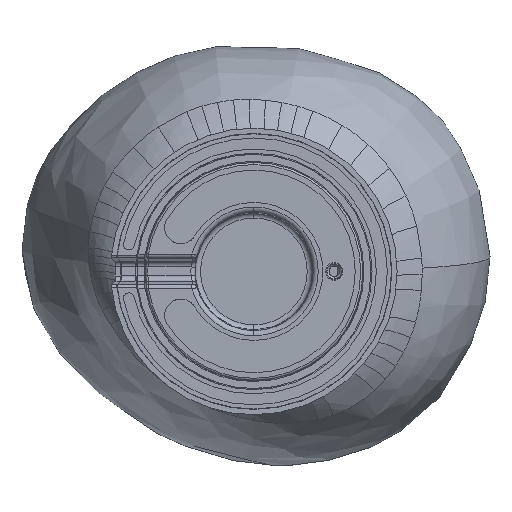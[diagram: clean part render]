
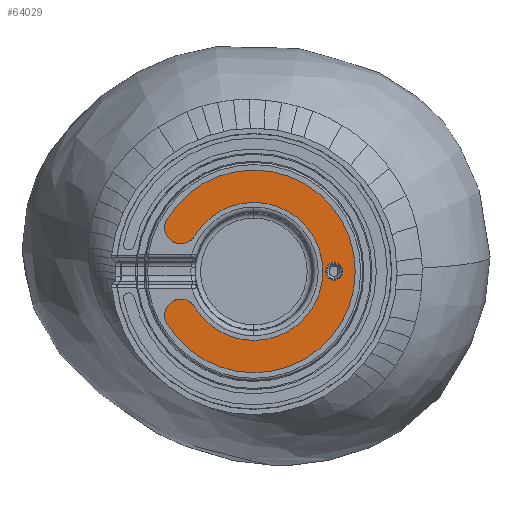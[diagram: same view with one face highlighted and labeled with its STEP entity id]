
A CAD part, front view. The second image highlights one B-rep face of the part: STEP entity #64029.
In plain terms, the highlighted planar face has unit normal (0, -1, 0).
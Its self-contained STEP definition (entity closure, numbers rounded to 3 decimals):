
#600 = CARTESIAN_POINT ( 'NONE',  ( 0., -0.7, -19.75 ) ) ;
#1207 = DIRECTION ( 'NONE',  ( 0., 0., 1. ) ) ;
#1472 = PLANE ( 'NONE',  #67805 ) ;
#1936 = DIRECTION ( 'NONE',  ( 1., 0., 0. ) ) ;
#2391 = EDGE_CURVE ( 'NONE', #37042, #11875, #4007, .T. ) ;
#2637 = VERTEX_POINT ( 'NONE', #26532 ) ;
#2710 = CARTESIAN_POINT ( 'NONE',  ( 0., -0.7, 29. ) ) ;
#4007 = CIRCLE ( 'NONE', #11600, 19.75 ) ;
#4125 = AXIS2_PLACEMENT_3D ( 'NONE', #89911, #53839, #1207 ) ;
#4709 = CIRCLE ( 'NONE', #57836, 4.625 ) ;
#5327 = EDGE_CURVE ( 'NONE', #11875, #87837, #75515, .T. ) ;
#6513 = ORIENTED_EDGE ( 'NONE', *, *, #40060, .F. ) ;
#7291 = DIRECTION ( 'NONE',  ( 0., 1., 0. ) ) ;
#8011 = DIRECTION ( 'NONE',  ( 0., 0., 1. ) ) ;
#8209 = CARTESIAN_POINT ( 'NONE',  ( -16.94, -0.7, 10.154 ) ) ;
#8498 = CIRCLE ( 'NONE', #23714, 4.625 ) ;
#8785 = DIRECTION ( 'NONE',  ( 0., 0., -1. ) ) ;
#9075 = CARTESIAN_POINT ( 'NONE',  ( -10.454, -0.7, -6.266 ) ) ;
#9401 = DIRECTION ( 'NONE',  ( 0., 1., 0. ) ) ;
#10057 = EDGE_CURVE ( 'NONE', #90797, #17990, #75425, .T. ) ;
#11059 = CARTESIAN_POINT ( 'NONE',  ( 0., -0.7, 0. ) ) ;
#11600 = AXIS2_PLACEMENT_3D ( 'NONE', #26173, #55611, #90764 ) ;
#11875 = VERTEX_POINT ( 'NONE', #27787 ) ;
#13092 = DIRECTION ( 'NONE',  ( 0., 0., 1. ) ) ;
#13669 = ORIENTED_EDGE ( 'NONE', *, *, #20809, .F. ) ;
#14058 = DIRECTION ( 'NONE',  ( 0., 0., 1. ) ) ;
#16025 = EDGE_LOOP ( 'NONE', ( #13669, #93236 ) ) ;
#17016 = DIRECTION ( 'NONE',  ( 0., 0., 1. ) ) ;
#17990 = VERTEX_POINT ( 'NONE', #22030 ) ;
#18844 = ORIENTED_EDGE ( 'NONE', *, *, #39180, .F. ) ;
#20809 = EDGE_CURVE ( 'NONE', #23966, #2637, #86511, .T. ) ;
#21100 = CARTESIAN_POINT ( 'NONE',  ( 0., -0.7, 0. ) ) ;
#22030 = CARTESIAN_POINT ( 'NONE',  ( 0., -0.7, -29. ) ) ;
#23714 = AXIS2_PLACEMENT_3D ( 'NONE', #29230, #36375, #13092 ) ;
#23908 = CARTESIAN_POINT ( 'NONE',  ( -20.907, -0.7, -12.531 ) ) ;
#23966 = VERTEX_POINT ( 'NONE', #82256 ) ;
#24931 = VERTEX_POINT ( 'NONE', #88909 ) ;
#26173 = CARTESIAN_POINT ( 'NONE',  ( 0., -0.7, 0. ) ) ;
#26532 = CARTESIAN_POINT ( 'NONE',  ( 23., -0.7, 2.5 ) ) ;
#27083 = DIRECTION ( 'NONE',  ( 0., 1., 0. ) ) ;
#27314 = VERTEX_POINT ( 'NONE', #35248 ) ;
#27417 = AXIS2_PLACEMENT_3D ( 'NONE', #48206, #48668, #77186 ) ;
#27787 = CARTESIAN_POINT ( 'NONE',  ( 0., -0.7, 19.75 ) ) ;
#28509 = ORIENTED_EDGE ( 'NONE', *, *, #2391, .F. ) ;
#29230 = CARTESIAN_POINT ( 'NONE',  ( -20.907, -0.7, 12.531 ) ) ;
#31843 = AXIS2_PLACEMENT_3D ( 'NONE', #44155, #59785, #8011 ) ;
#32939 = DIRECTION ( 'NONE',  ( 0., 0., 1. ) ) ;
#35168 = CARTESIAN_POINT ( 'NONE',  ( -24.874, -0.7, -14.909 ) ) ;
#35248 = CARTESIAN_POINT ( 'NONE',  ( -20.907, -0.7, 7.906 ) ) ;
#35529 = ORIENTED_EDGE ( 'NONE', *, *, #10057, .F. ) ;
#36307 = DIRECTION ( 'NONE',  ( 0., 0., 1. ) ) ;
#36375 = DIRECTION ( 'NONE',  ( 0., 1., 0. ) ) ;
#37042 = VERTEX_POINT ( 'NONE', #600 ) ;
#37540 = AXIS2_PLACEMENT_3D ( 'NONE', #50175, #56828, #14058 ) ;
#39180 = EDGE_CURVE ( 'NONE', #82285, #68660, #4709, .T. ) ;
#40060 = EDGE_CURVE ( 'NONE', #17990, #82285, #63957, .T. ) ;
#43535 = CARTESIAN_POINT ( 'NONE',  ( 23., -0.7, 0. ) ) ;
#44155 = CARTESIAN_POINT ( 'NONE',  ( 0., -0.7, 0. ) ) ;
#45220 = AXIS2_PLACEMENT_3D ( 'NONE', #21100, #7291, #36307 ) ;
#45311 = EDGE_LOOP ( 'NONE', ( #64064, #18844, #6513, #35529, #47008, #52623, #54649, #65512, #28509 ) ) ;
#46784 = CIRCLE ( 'NONE', #45220, 29. ) ;
#47008 = ORIENTED_EDGE ( 'NONE', *, *, #67921, .F. ) ;
#48206 = CARTESIAN_POINT ( 'NONE',  ( 23., -0.7, 0. ) ) ;
#48668 = DIRECTION ( 'NONE',  ( 0., -1., 0. ) ) ;
#50175 = CARTESIAN_POINT ( 'NONE',  ( 0., -0.7, 0. ) ) ;
#50771 = AXIS2_PLACEMENT_3D ( 'NONE', #43535, #80088, #8785 ) ;
#50955 = EDGE_CURVE ( 'NONE', #2637, #23966, #73498, .T. ) ;
#52623 = ORIENTED_EDGE ( 'NONE', *, *, #57162, .F. ) ;
#53280 = FACE_OUTER_BOUND ( 'NONE', #45311, .T. ) ;
#53746 = FACE_BOUND ( 'NONE', #16025, .T. ) ;
#53839 = DIRECTION ( 'NONE',  ( 0., -1., 0. ) ) ;
#54544 = CARTESIAN_POINT ( 'NONE',  ( -20.907, -0.7, 12.531 ) ) ;
#54649 = ORIENTED_EDGE ( 'NONE', *, *, #92120, .F. ) ;
#55594 = CARTESIAN_POINT ( 'NONE',  ( -16.94, -0.7, -10.154 ) ) ;
#55611 = DIRECTION ( 'NONE',  ( 0., -1., 0. ) ) ;
#56155 = AXIS2_PLACEMENT_3D ( 'NONE', #54544, #9401, #17016 ) ;
#56828 = DIRECTION ( 'NONE',  ( 0., 1., 0. ) ) ;
#57162 = EDGE_CURVE ( 'NONE', #27314, #24931, #8498, .T. ) ;
#57836 = AXIS2_PLACEMENT_3D ( 'NONE', #23908, #27083, #84557 ) ;
#59785 = DIRECTION ( 'NONE',  ( 0., -1., 0. ) ) ;
#63957 = CIRCLE ( 'NONE', #91284, 29. ) ;
#64029 = ADVANCED_FACE ( 'NONE', ( #53746, #53280 ), #1472, .F. ) ;
#64064 = ORIENTED_EDGE ( 'NONE', *, *, #89949, .F. ) ;
#65512 = ORIENTED_EDGE ( 'NONE', *, *, #5327, .F. ) ;
#67805 = AXIS2_PLACEMENT_3D ( 'NONE', #9075, #89817, #1936 ) ;
#67921 = EDGE_CURVE ( 'NONE', #24931, #90797, #46784, .T. ) ;
#68660 = VERTEX_POINT ( 'NONE', #55594 ) ;
#69842 = CIRCLE ( 'NONE', #56155, 4.625 ) ;
#73498 = CIRCLE ( 'NONE', #50771, 2.5 ) ;
#75425 = CIRCLE ( 'NONE', #37540, 29. ) ;
#75515 = CIRCLE ( 'NONE', #4125, 19.75 ) ;
#77186 = DIRECTION ( 'NONE',  ( 0., 0., -1. ) ) ;
#78867 = CIRCLE ( 'NONE', #31843, 19.75 ) ;
#80088 = DIRECTION ( 'NONE',  ( 0., -1., 0. ) ) ;
#82256 = CARTESIAN_POINT ( 'NONE',  ( 23., -0.7, -2.5 ) ) ;
#82285 = VERTEX_POINT ( 'NONE', #35168 ) ;
#83758 = DIRECTION ( 'NONE',  ( 0., 1., 0. ) ) ;
#84557 = DIRECTION ( 'NONE',  ( 0., 0., 1. ) ) ;
#86511 = CIRCLE ( 'NONE', #27417, 2.5 ) ;
#87837 = VERTEX_POINT ( 'NONE', #8209 ) ;
#88909 = CARTESIAN_POINT ( 'NONE',  ( -24.874, -0.7, 14.909 ) ) ;
#89817 = DIRECTION ( 'NONE',  ( 0., 1., 0. ) ) ;
#89911 = CARTESIAN_POINT ( 'NONE',  ( 0., -0.7, 0. ) ) ;
#89949 = EDGE_CURVE ( 'NONE', #68660, #37042, #78867, .T. ) ;
#90764 = DIRECTION ( 'NONE',  ( 0., 0., 1. ) ) ;
#90797 = VERTEX_POINT ( 'NONE', #2710 ) ;
#91284 = AXIS2_PLACEMENT_3D ( 'NONE', #11059, #83758, #32939 ) ;
#92120 = EDGE_CURVE ( 'NONE', #87837, #27314, #69842, .T. ) ;
#93236 = ORIENTED_EDGE ( 'NONE', *, *, #50955, .F. ) ;
